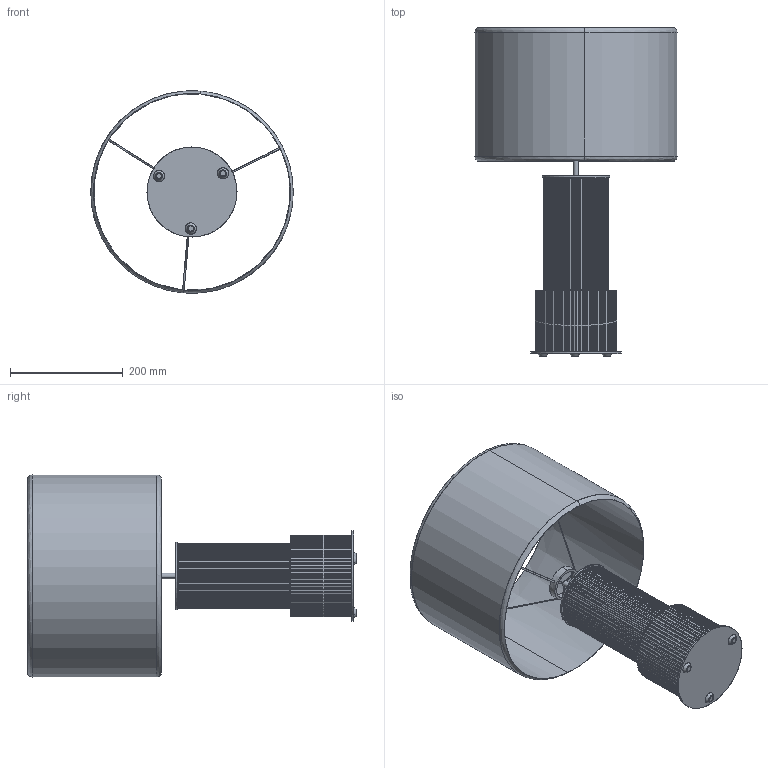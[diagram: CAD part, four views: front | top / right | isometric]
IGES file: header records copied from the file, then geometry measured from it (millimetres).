
Start section: SolidWorks IGES file using analytic representation for surfaces
Global section: file name: C:\Users\Maripaz\Desktop\NAC115\NAC115.IGS; native system: SolidWorks 2017; preprocessor: SolidWorks 2017; author: Maripaz; date: 190305.172404; units: millimetre
Bounding box: 360 x 584.45 x 359.99 mm (x, y, z)
Surface area: 911615 mm2 (no closed solid volume)
Topology: 0 solids, 0 shells, 1987 faces, 12758 edges, 12758 vertices
Faces by surface type: bspline 1220, revolution 767
